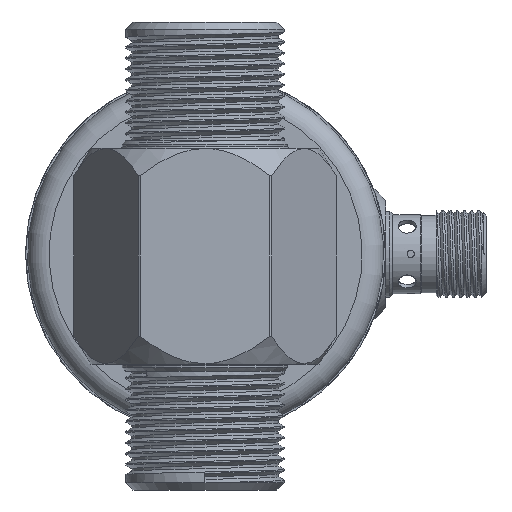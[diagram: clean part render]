
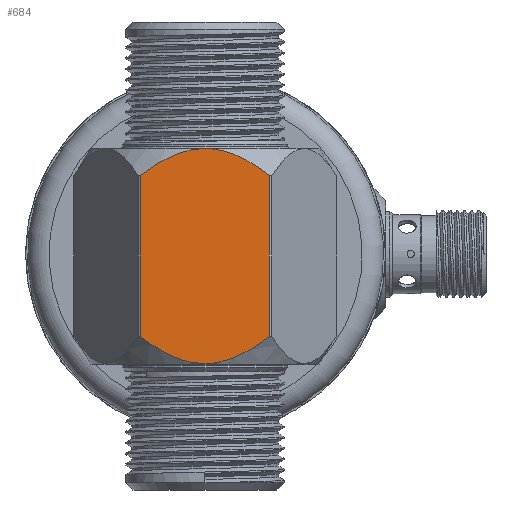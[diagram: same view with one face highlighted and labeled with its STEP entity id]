
A CAD part, front view. The second image highlights one B-rep face of the part: STEP entity #684.
In plain terms, the highlighted planar face has unit normal (0, -1, 0) as drawn and (1, 0, 0) by its records, which use the part's own axes.
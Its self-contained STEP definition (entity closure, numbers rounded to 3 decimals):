
#684 = ADVANCED_FACE ( 'NONE', ( #9062 ), #24461, .F. ) ;
#696 = VERTEX_POINT ( 'NONE', #2687 ) ;
#1024 = EDGE_LOOP ( 'NONE', ( #25960, #19824, #23638, #21560 ) ) ;
#1415 = CARTESIAN_POINT ( 'NONE',  ( 15.9, 1.651, -14.807 ) ) ;
#1545 = CARTESIAN_POINT ( 'NONE',  ( 15.9, 5.172, -13.63 ) ) ;
#1678 = CARTESIAN_POINT ( 'NONE',  ( 15.9, -4.032, -14.155 ) ) ;
#1812 = CARTESIAN_POINT ( 'NONE',  ( 15.9, -8.958, -11.176 ) ) ;
#2687 = CARTESIAN_POINT ( 'NONE',  ( 15.9, -8.958, -11.176 ) ) ;
#3157 = LINE ( 'NONE', #24292, #19240 ) ;
#3611 = CARTESIAN_POINT ( 'NONE',  ( 15.9, -6.243, -13.05 ) ) ;
#3747 = CARTESIAN_POINT ( 'NONE',  ( 15.9, 7.654, -12.159 ) ) ;
#3927 = CARTESIAN_POINT ( 'NONE',  ( 15.9, -6.266, 13.037 ) ) ;
#3949 = EDGE_CURVE ( 'NONE', #696, #15459, #21750, .T. ) ;
#5350 = CARTESIAN_POINT ( 'NONE',  ( 15.9, -0.825, 14.91 ) ) ;
#5536 = B_SPLINE_CURVE_WITH_KNOTS ( 'NONE', 3,
 ( #8360, #5864, #12670, #16848, #3927, #14358, #14623, #24415, #8073, #21014, #16574, #5350, #22845, #25075, #16709, #11740, #9659, #6004, #14491, #25343, #10300, #18158, #14755, #22325 ),
 .UNSPECIFIED., .F., .F.,
 ( 4, 2, 2, 2, 2, 2, 2, 2, 2, 2, 2, 4 ),
 ( 0.025, 0.028, 0.029, 0.03, 0.033, 0.034, 0.035, 0.038, 0.04, 0.041, 0.042, 0.045 ),
 .UNSPECIFIED. ) ;
#5689 = CARTESIAN_POINT ( 'NONE',  ( 15.9, -0.818, -14.936 ) ) ;
#5821 = CARTESIAN_POINT ( 'NONE',  ( 15.9, -1.634, -14.834 ) ) ;
#5864 = CARTESIAN_POINT ( 'NONE',  ( 15.9, -8.316, 11.68 ) ) ;
#6004 = CARTESIAN_POINT ( 'NONE',  ( 15.9, 5.154, 13.639 ) ) ;
#7762 = CARTESIAN_POINT ( 'NONE',  ( 15.9, -6.6, -12.836 ) ) ;
#8032 = CARTESIAN_POINT ( 'NONE',  ( 15.9, 0.825, -14.91 ) ) ;
#8073 = CARTESIAN_POINT ( 'NONE',  ( 15.9, -3.268, 14.435 ) ) ;
#8296 = AXIS2_PLACEMENT_3D ( 'NONE', #15050, #8791, #9568 ) ;
#8360 = CARTESIAN_POINT ( 'NONE',  ( 15.9, -8.958, 11.176 ) ) ;
#8669 = CARTESIAN_POINT ( 'NONE',  ( 15.9, -8.958, -33. ) ) ;
#8791 = DIRECTION ( 'NONE',  ( -1., 0., 0. ) ) ;
#9062 = FACE_OUTER_BOUND ( 'NONE', #1024, .T. ) ;
#9483 = CARTESIAN_POINT ( 'NONE',  ( 15.9, 8.958, 11.176 ) ) ;
#9568 = DIRECTION ( 'NONE',  ( 0., -1., 0. ) ) ;
#9659 = CARTESIAN_POINT ( 'NONE',  ( 15.9, 4.032, 14.155 ) ) ;
#9992 = CARTESIAN_POINT ( 'NONE',  ( 15.9, -3.256, -14.439 ) ) ;
#10300 = CARTESIAN_POINT ( 'NONE',  ( 15.9, 6.6, 12.836 ) ) ;
#11249 = CARTESIAN_POINT ( 'NONE',  ( 15.9, 8.958, -11.176 ) ) ;
#11740 = CARTESIAN_POINT ( 'NONE',  ( 15.9, 3.256, 14.439 ) ) ;
#11808 = CARTESIAN_POINT ( 'NONE',  ( 15.9, -5.154, -13.639 ) ) ;
#11945 = CARTESIAN_POINT ( 'NONE',  ( 15.9, -5.521, -13.451 ) ) ;
#12670 = CARTESIAN_POINT ( 'NONE',  ( 15.9, -7.654, 12.159 ) ) ;
#14185 = CARTESIAN_POINT ( 'NONE',  ( 15.9, -7.647, -12.165 ) ) ;
#14358 = CARTESIAN_POINT ( 'NONE',  ( 15.9, -5.544, 13.439 ) ) ;
#14445 = CARTESIAN_POINT ( 'NONE',  ( 15.9, 6.266, -13.037 ) ) ;
#14491 = CARTESIAN_POINT ( 'NONE',  ( 15.9, 5.521, 13.451 ) ) ;
#14623 = CARTESIAN_POINT ( 'NONE',  ( 15.9, -5.172, 13.63 ) ) ;
#14755 = CARTESIAN_POINT ( 'NONE',  ( 15.9, 8.314, 11.682 ) ) ;
#14848 = VERTEX_POINT ( 'NONE', #9483 ) ;
#15050 = CARTESIAN_POINT ( 'NONE',  ( 15.9, -9.18, 15. ) ) ;
#15070 = DIRECTION ( 'NONE',  ( 0., 0., 1. ) ) ;
#15459 = VERTEX_POINT ( 'NONE', #21320 ) ;
#15491 = EDGE_CURVE ( 'NONE', #20963, #696, #20228, .T. ) ;
#15981 = CARTESIAN_POINT ( 'NONE',  ( 15.9, 2.063, -14.73 ) ) ;
#16116 = CARTESIAN_POINT ( 'NONE',  ( 15.9, 5.544, -13.439 ) ) ;
#16524 = CARTESIAN_POINT ( 'NONE',  ( 15.9, -8.314, -11.682 ) ) ;
#16574 = CARTESIAN_POINT ( 'NONE',  ( 15.9, -1.651, 14.807 ) ) ;
#16709 = CARTESIAN_POINT ( 'NONE',  ( 15.9, 1.634, 14.834 ) ) ;
#16848 = CARTESIAN_POINT ( 'NONE',  ( 15.9, -6.618, 12.824 ) ) ;
#17586 = EDGE_CURVE ( 'NONE', #15459, #14848, #5536, .T. ) ;
#18158 = CARTESIAN_POINT ( 'NONE',  ( 15.9, 7.647, 12.165 ) ) ;
#19240 = VECTOR ( 'NONE', #20398, 1000. ) ;
#19824 = ORIENTED_EDGE ( 'NONE', *, *, #15491, .F. ) ;
#20119 = EDGE_CURVE ( 'NONE', #14848, #20963, #3157, .T. ) ;
#20200 = VECTOR ( 'NONE', #15070, 1000. ) ;
#20228 = B_SPLINE_CURVE_WITH_KNOTS ( 'NONE', 3,
 ( #26710, #24752, #3747, #20443, #14445, #16116, #1545, #24891, #27113, #15981, #1415, #8032, #24615, #5689, #5821, #9992, #1678, #11808, #11945, #3611, #7762, #14185, #16524, #1812 ),
 .UNSPECIFIED., .F., .F.,
 ( 4, 2, 2, 2, 2, 2, 2, 2, 2, 2, 2, 4 ),
 ( 0.025, 0.028, 0.029, 0.03, 0.033, 0.034, 0.035, 0.038, 0.04, 0.041, 0.042, 0.045 ),
 .UNSPECIFIED. ) ;
#20398 = DIRECTION ( 'NONE',  ( 0., 0., -1. ) ) ;
#20443 = CARTESIAN_POINT ( 'NONE',  ( 15.9, 6.618, -12.824 ) ) ;
#20963 = VERTEX_POINT ( 'NONE', #11249 ) ;
#21014 = CARTESIAN_POINT ( 'NONE',  ( 15.9, -2.063, 14.73 ) ) ;
#21320 = CARTESIAN_POINT ( 'NONE',  ( 15.9, -8.958, 11.176 ) ) ;
#21560 = ORIENTED_EDGE ( 'NONE', *, *, #17586, .F. ) ;
#21750 = LINE ( 'NONE', #8669, #20200 ) ;
#22325 = CARTESIAN_POINT ( 'NONE',  ( 15.9, 8.958, 11.176 ) ) ;
#22845 = CARTESIAN_POINT ( 'NONE',  ( 15.9, -0.414, 14.935 ) ) ;
#23638 = ORIENTED_EDGE ( 'NONE', *, *, #20119, .F. ) ;
#24292 = CARTESIAN_POINT ( 'NONE',  ( 15.9, 8.958, -33. ) ) ;
#24415 = CARTESIAN_POINT ( 'NONE',  ( 15.9, -4.042, 14.152 ) ) ;
#24461 = PLANE ( 'NONE',  #8296 ) ;
#24615 = CARTESIAN_POINT ( 'NONE',  ( 15.9, 0.414, -14.935 ) ) ;
#24752 = CARTESIAN_POINT ( 'NONE',  ( 15.9, 8.316, -11.68 ) ) ;
#24891 = CARTESIAN_POINT ( 'NONE',  ( 15.9, 4.042, -14.152 ) ) ;
#25075 = CARTESIAN_POINT ( 'NONE',  ( 15.9, 0.818, 14.936 ) ) ;
#25343 = CARTESIAN_POINT ( 'NONE',  ( 15.9, 6.243, 13.05 ) ) ;
#25960 = ORIENTED_EDGE ( 'NONE', *, *, #3949, .F. ) ;
#26710 = CARTESIAN_POINT ( 'NONE',  ( 15.9, 8.958, -11.176 ) ) ;
#27113 = CARTESIAN_POINT ( 'NONE',  ( 15.9, 3.268, -14.435 ) ) ;
